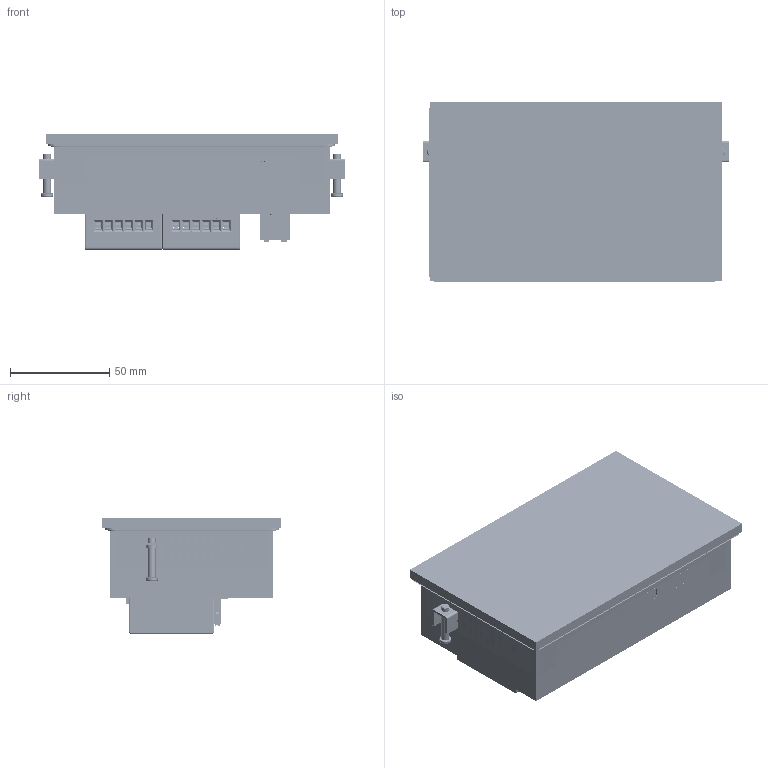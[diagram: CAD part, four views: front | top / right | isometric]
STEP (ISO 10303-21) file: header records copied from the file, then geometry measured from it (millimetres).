
FILE_DESCRIPTION((''),'2;1');
FILE_NAME('AIO-043-M2-ASM_ASM','2023-02-27T',('samkoon'),(''),'PRO/ENGINEER BY PARAMETRIC TECHNOLOGY CORPORATION, 2015240','PRO/ENGINEER BY PARAMETRIC TECHNOLOGY CORPORATION, 2015240','');
FILE_SCHEMA(('AUTOMOTIVE_DESIGN { 1 0 10303 214 1 1 1 1 }'));
Products named in the file (59): MASTER-AIO-043-M2; FRONT-CAB-AIO-043-M2; BACK-CAB-AIO-043-M2-A; BACK-CAB-AIO-043-M2-B; LCD-043-ZS; TP-043-18-KDT; LCD-TP-M2-ASM_ASM; PCB-HMI-AIO-043-M2; 350-2PIN-NONESCREW; TERM-2PIN-TL; LED-SMD; TYPE-C-WOSHI; USB-A-WOSHI1; RJ-45-WOSHI; PCBA-HMI-AIO-043-M2-ASM_ASM; PCB-PLC-AIO-043-M2; CMP15-TML-350-T1; CMP15-TML-350-T2; CMP15-TML-350-T4; CMP15-TML-350-T3; CMP15-TML-350-T-SCREW; CMP15-TML-350-2X12PIN-T-ASM_ASM; CMP15-TML-350-B1; CMP15-TML-350-B2; CMP15-TML-350-B4; CMP15-TML-350-B3; CMP15-TML-350-2X12PIN-B-ASM_ASM; CMP15-TML-350-2X12PIN-ASM_ASM; SWITCH-1PIN; HUADONGKAIGUAN-01; PCBA-PLC-AIO-043-M2-ASM_ASM; PCBA-AIO-043-M2-ASM_ASM; PC-PANEL-SA-043A-M2; RUBBER-AIO-043-M2; LOCK-BRA-HMI-202204; HMI-LOCK-SCREWM-4X25-202204; LOCK-BRA-HMI-ASM-202204_ASM; TOP-COVER-PLC-56IO-0829; COVER-PLC-DECO-EXT-0829; TOP-COVER-PLC-EXT-ESD-0829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
Assembly tree (87 placements, depth 7):
  AIO-043-M2-ASM_ASM
    MASTER-AIO-043-M2
    FRONT-CAB-AIO-043-M2
    BACK-CAB-AIO-043-M2-A
    BACK-CAB-AIO-043-M2-B
    LCD-TP-M2-ASM_ASM
      LCD-043-ZS
      TP-043-18-KDT
    PCBA-AIO-043-M2-ASM_ASM
      PCBA-HMI-AIO-043-M2-ASM_ASM
        PCB-HMI-AIO-043-M2
        350-2PIN-NONESCREW
        TERM-2PIN-TL
        LED-SMD  x3
        TYPE-C-WOSHI
        USB-A-WOSHI1
        RJ-45-WOSHI
      PCBA-PLC-AIO-043-M2-ASM_ASM
        PCB-PLC-AIO-043-M2
        CMP15-TML-350-2X12PIN-ASM_ASM
          CMP15-TML-350-2X12PIN-T-ASM_ASM
            CMP15-TML-350-T1
            CMP15-TML-350-T2  x3
            CMP15-TML-350-T4
            CMP15-TML-350-T3
            CMP15-TML-350-T-SCREW  x2
          CMP15-TML-350-2X12PIN-B-ASM_ASM
            CMP15-TML-350-B1
            CMP15-TML-350-B2  x3
            CMP15-TML-350-B4
            CMP15-TML-350-B3
        SWITCH-1PIN
        HUADONGKAIGUAN-01
    PC-PANEL-SA-043A-M2
    RUBBER-AIO-043-M2  x2
    LOCK-BRA-HMI-ASM-202204_ASM  x2
      LOCK-BRA-HMI-202204
      HMI-LOCK-SCREWM-4X25-202204
    PLC-56IO-ASM-0829_ASM
      TOP-COVER-PLC-56IO-0829
      COVER-PLC-DECO-EXT-0829  x2
      PLC-EXT-EMD-ASM-0829_ASM  x2
        TOP-COVER-PLC-EXT-ESD-0829
        BOTTOM-COVER-PLC-EXT-ESD-0829
        PCBA-PLC-EXT-EMD-ASM-0829_ASM
          PCB-PLC-EXT-EMD-0829
          LED-SMD-0829  x8
          PIN-EXT-EMD-ASM-0829_ASM
            PIN-EMD-FEMALE-0829
            PIN-EMD-MALE-EMD-0829
          EMD-105-PIN06-508-ASM-0829_ASM  x2
            EMD-105-PIN03-508-ASM-0829_ASM
              221900002-0829
              660300000-0829  x3
              550200000-0829  x3
        LOCK-TOP-PLC-EXT-EMD-0829
        LOCK-BOTTOM-PLC-EXT-EMD-0829
        PC-COVER-PLC-EXT-EMD-0829
    SCREW-2O6X12PA  x4
Bounding box: 154.8 x 90.6 x 58.5 mm (x, y, z)
Volume: 744888.5 mm3; surface area: 464149.6 mm2
Topology: 138 solids, 173 shells, 22056 faces, 62277 edges, 40811 vertices
Faces by surface type: plane 16327, cylinder 2984, extrusion 1773, cone 426, bspline 360, torus 154, sphere 32
Entity records: 394191 total; most frequent: CARTESIAN_POINT 81475, ORIENTED_EDGE 58534, DIRECTION 51396, EDGE_CURVE 29645, VECTOR 24966, LINE 24569, VERTEX_POINT 19518, AXIS2_PLACEMENT_3D 13215
